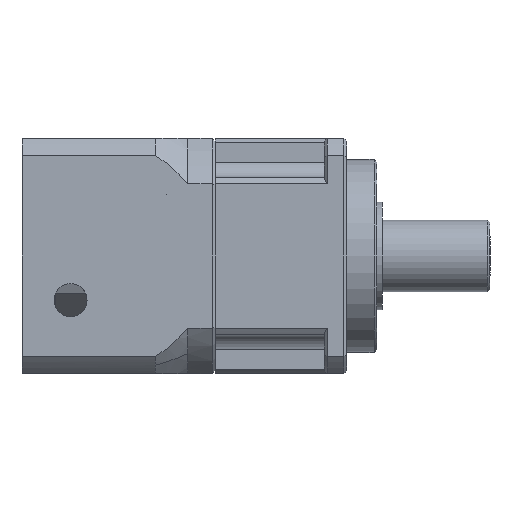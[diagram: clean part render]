
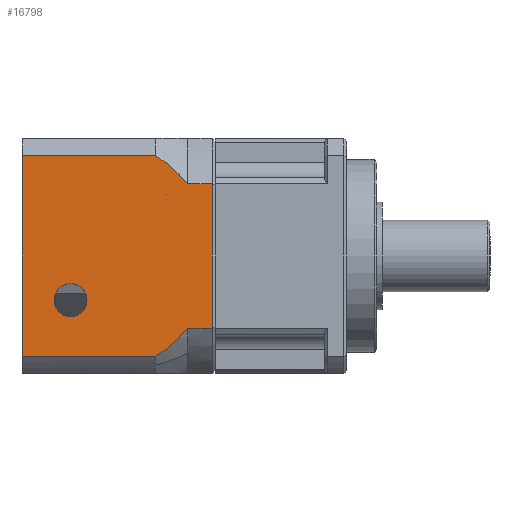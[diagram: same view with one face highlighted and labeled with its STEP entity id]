
A CAD part, front view. The second image highlights one B-rep face of the part: STEP entity #16798.
In plain terms, the highlighted planar face has unit normal (0, -1, 0) as drawn and (1, 0, 0) by its records, which use the part's own axes.
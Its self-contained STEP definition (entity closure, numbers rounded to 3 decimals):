
#874 = ORIENTED_EDGE ( 'NONE', *, *, #26995, .T. ) ;
#914 = CIRCLE ( 'NONE', #12401, 3. ) ;
#1041 = ORIENTED_EDGE ( 'NONE', *, *, #28526, .T. ) ;
#1656 = EDGE_CURVE ( 'NONE', #22167, #24137, #14943, .T. ) ;
#3364 = VERTEX_POINT ( 'NONE', #21277 ) ;
#3527 = CARTESIAN_POINT ( 'NONE',  ( 21.3, 29.7, 13.089 ) ) ;
#4580 = ORIENTED_EDGE ( 'NONE', *, *, #30593, .T. ) ;
#5267 = CARTESIAN_POINT ( 'NONE',  ( 21.3, 29.7, -13.089 ) ) ;
#6066 = EDGE_CURVE ( 'NONE', #24137, #17350, #15161, .T. ) ;
#6286 = CARTESIAN_POINT ( 'NONE',  ( 21.3, 29.7, 13.089 ) ) ;
#6558 = DIRECTION ( 'NONE',  ( 0., 1., 0. ) ) ;
#7282 = CARTESIAN_POINT ( 'NONE',  ( 21.3, 23.887, -18.174 ) ) ;
#7515 = FACE_BOUND ( 'NONE', #33337, .T. ) ;
#7694 = EDGE_CURVE ( 'NONE', #13126, #12804, #28803, .T. ) ;
#8522 = EDGE_CURVE ( 'NONE', #27362, #21721, #9364, .T. ) ;
#9155 = VERTEX_POINT ( 'NONE', #18084 ) ;
#9364 = CIRCLE ( 'NONE', #10517, 21.126 ) ;
#10075 = LINE ( 'NONE', #3527, #35969 ) ;
#10489 = LINE ( 'NONE', #37795, #34357 ) ;
#10517 = AXIS2_PLACEMENT_3D ( 'NONE', #21745, #21610, #21475 ) ;
#12392 = ORIENTED_EDGE ( 'NONE', *, *, #39075, .T. ) ;
#12401 = AXIS2_PLACEMENT_3D ( 'NONE', #35594, #16204, #38807 ) ;
#12804 = VERTEX_POINT ( 'NONE', #22111 ) ;
#13124 = CARTESIAN_POINT ( 'NONE',  ( 21.3, 4.7, -13.089 ) ) ;
#13126 = VERTEX_POINT ( 'NONE', #14253 ) ;
#14253 = CARTESIAN_POINT ( 'NONE',  ( 21.3, 8.5, -5. ) ) ;
#14353 = AXIS2_PLACEMENT_3D ( 'NONE', #20309, #20265, #20157 ) ;
#14943 = LINE ( 'NONE', #33060, #22547 ) ;
#15161 = CIRCLE ( 'NONE', #16225, 21.126 ) ;
#15252 = VECTOR ( 'NONE', #16415, 1000. ) ;
#15270 = DIRECTION ( 'NONE',  ( 0., -1., 0. ) ) ;
#15729 = ORIENTED_EDGE ( 'NONE', *, *, #1656, .T. ) ;
#16204 = DIRECTION ( 'NONE',  ( -1., 0., 0. ) ) ;
#16225 = AXIS2_PLACEMENT_3D ( 'NONE', #21527, #21472, #21336 ) ;
#16415 = DIRECTION ( 'NONE',  ( 0., 1., 0. ) ) ;
#16798 = ADVANCED_FACE ( 'NONE', ( #7515, #33497 ), #37209, .T. ) ;
#17350 = VERTEX_POINT ( 'NONE', #5267 ) ;
#18084 = CARTESIAN_POINT ( 'NONE',  ( 21.3, -0.3, 18.174 ) ) ;
#18246 = CARTESIAN_POINT ( 'NONE',  ( 21.3, 4.7, 18.174 ) ) ;
#18695 = ORIENTED_EDGE ( 'NONE', *, *, #29331, .F. ) ;
#19176 = ORIENTED_EDGE ( 'NONE', *, *, #7694, .T. ) ;
#20157 = DIRECTION ( 'NONE',  ( 0., 0., -1. ) ) ;
#20265 = DIRECTION ( 'NONE',  ( -1., 0., 0. ) ) ;
#20309 = CARTESIAN_POINT ( 'NONE',  ( 21.3, 8.5, -8. ) ) ;
#20721 = VECTOR ( 'NONE', #15270, 1000. ) ;
#21161 = VECTOR ( 'NONE', #37612, 1000. ) ;
#21277 = CARTESIAN_POINT ( 'NONE',  ( 21.3, 34.2, 13.089 ) ) ;
#21336 = DIRECTION ( 'NONE',  ( 0., 0., -1. ) ) ;
#21472 = DIRECTION ( 'NONE',  ( 1., 0., 0. ) ) ;
#21475 = DIRECTION ( 'NONE',  ( 0., 0., -1. ) ) ;
#21527 = CARTESIAN_POINT ( 'NONE',  ( 21.3, 13.117, 0. ) ) ;
#21610 = DIRECTION ( 'NONE',  ( 1., 0., 0. ) ) ;
#21721 = VERTEX_POINT ( 'NONE', #38335 ) ;
#21745 = CARTESIAN_POINT ( 'NONE',  ( 21.3, 13.117, 0. ) ) ;
#22111 = CARTESIAN_POINT ( 'NONE',  ( 21.3, 8.5, -11. ) ) ;
#22167 = VERTEX_POINT ( 'NONE', #26921 ) ;
#22547 = VECTOR ( 'NONE', #6558, 1000. ) ;
#24137 = VERTEX_POINT ( 'NONE', #7282 ) ;
#24635 = CARTESIAN_POINT ( 'NONE',  ( 21.3, -0.3, -21.3 ) ) ;
#25102 = DIRECTION ( 'NONE',  ( 0., 0., -1. ) ) ;
#26921 = CARTESIAN_POINT ( 'NONE',  ( 21.3, -0.3, -18.174 ) ) ;
#26995 = EDGE_CURVE ( 'NONE', #12804, #13126, #914, .T. ) ;
#27362 = VERTEX_POINT ( 'NONE', #6286 ) ;
#28010 = ORIENTED_EDGE ( 'NONE', *, *, #8522, .T. ) ;
#28526 = EDGE_CURVE ( 'NONE', #17350, #30982, #32552, .T. ) ;
#28803 = CIRCLE ( 'NONE', #14353, 3. ) ;
#28806 = LINE ( 'NONE', #24635, #21161 ) ;
#29331 = EDGE_CURVE ( 'NONE', #27362, #3364, #10075, .T. ) ;
#30593 = EDGE_CURVE ( 'NONE', #21721, #9155, #36883, .T. ) ;
#30954 = EDGE_CURVE ( 'NONE', #3364, #30982, #10489, .T. ) ;
#30982 = VERTEX_POINT ( 'NONE', #31663 ) ;
#31576 = ORIENTED_EDGE ( 'NONE', *, *, #6066, .T. ) ;
#31663 = CARTESIAN_POINT ( 'NONE',  ( 21.3, 34.2, -13.089 ) ) ;
#32009 = ORIENTED_EDGE ( 'NONE', *, *, #30954, .F. ) ;
#32478 = EDGE_LOOP ( 'NONE', ( #18695, #28010, #4580, #12392, #15729, #31576, #1041, #32009 ) ) ;
#32552 = LINE ( 'NONE', #13124, #15252 ) ;
#33060 = CARTESIAN_POINT ( 'NONE',  ( 21.3, 4.7, -18.174 ) ) ;
#33337 = EDGE_LOOP ( 'NONE', ( #874, #19176 ) ) ;
#33497 = FACE_OUTER_BOUND ( 'NONE', #32478, .T. ) ;
#33567 = AXIS2_PLACEMENT_3D ( 'NONE', #37077, #36804, #36641 ) ;
#34357 = VECTOR ( 'NONE', #25102, 1000. ) ;
#35594 = CARTESIAN_POINT ( 'NONE',  ( 21.3, 8.5, -8. ) ) ;
#35969 = VECTOR ( 'NONE', #36059, 1000. ) ;
#36059 = DIRECTION ( 'NONE',  ( 0., 1., 0. ) ) ;
#36641 = DIRECTION ( 'NONE',  ( 0., 0., -1. ) ) ;
#36804 = DIRECTION ( 'NONE',  ( 1., 0., 0. ) ) ;
#36883 = LINE ( 'NONE', #18246, #20721 ) ;
#37077 = CARTESIAN_POINT ( 'NONE',  ( 21.3, 4.7, -21.3 ) ) ;
#37209 = PLANE ( 'NONE',  #33567 ) ;
#37612 = DIRECTION ( 'NONE',  ( 0., 0., -1. ) ) ;
#37795 = CARTESIAN_POINT ( 'NONE',  ( 21.3, 34.2, 0. ) ) ;
#38335 = CARTESIAN_POINT ( 'NONE',  ( 21.3, 23.887, 18.174 ) ) ;
#38807 = DIRECTION ( 'NONE',  ( 0., 0., -1. ) ) ;
#39075 = EDGE_CURVE ( 'NONE', #9155, #22167, #28806, .T. ) ;
